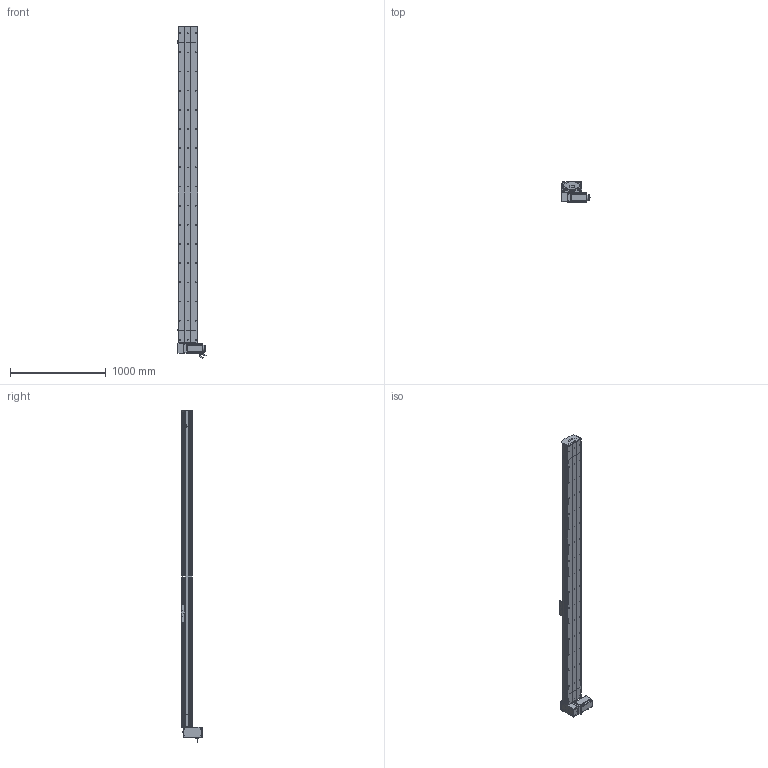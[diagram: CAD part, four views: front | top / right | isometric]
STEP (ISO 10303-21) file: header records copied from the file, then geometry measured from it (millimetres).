
FILE_DESCRIPTION (( 'STEP AP214' ), '1' );
FILE_NAME ('D20 TBH RU S3000.STEP', '2010-07-01T08:28:59', ( 'Conseil Régional Haute-Normandie' ), ( 'Conseil Régional Haute-Normandie' ), 'SwSTEP 2.0', 'SolidWorks 2010', '' );
FILE_SCHEMA (( 'AUTOMOTIVE_DESIGN' ));
Length unit declared in the file: millimetre
Products named in the file (40): chariot D20B_Default; D20 TBH RU S3000; poulie head D20_Default; Chariot D20B; couvercle head D20_Default; Course B L3000_Default; guide D20B; corp D20 S3000_Default; head RU_Default; rail tail D20; rail head D20; corpl head D20_Default; couvercle D20 S3000_Default; vis M5 L8 90°_Default; tete d''axe poulie D20B; rail + couroie  D20 S3000; couvercle tail D20_Default; corpl tail D20_Default; tail D20_Default; Couroie tail D20_Default; plaque de  bout tail D20_Default; poulie tail D20_Default; vis M5 L12_Default; vis M8 L12_Default; codeur 110BLDC170A-630x; corps 110BLDC170A-630x; avant 110BLDC170A-630x; clavette; Conecteur_Default; Conecteur2_Default; Moteur motionking 110BLDC170A-640x; vis M5 L70_Default; Plaque racord D20LH_Default; Renvoi RU D20_Default; vis M5 L25_Default; vis M5 L5_Default; cache D20_Default; cache arbre D20_Default; couroie_Default; plaque de  bout head D20B RU_Default
Assembly tree (71 placements, depth 4):
  D20 TBH RU S3000
    head RU_Default
      vis M5 L5_Default  x4
      vis M8 L12_Default  x4
      couroie_Default
      vis M5 L12_Default  x10
      vis M5 L25_Default  x2
      poulie head D20_Default
      corpl head D20_Default
      vis M5 L70_Default  x4
      Plaque racord D20LH_Default
      Moteur motionking 110BLDC170A-640x
        codeur 110BLDC170A-630x
        Conecteur2_Default
        corps 110BLDC170A-630x
        clavette
        Conecteur_Default
        avant 110BLDC170A-630x
      couvercle head D20_Default
      cache D20_Default  x2
      cache arbre D20_Default
      Renvoi RU D20_Default
      plaque de  bout head D20B RU_Default
      rail head D20
    Course B L3000_Default
      couvercle D20 S3000_Default
      corp D20 S3000_Default
      rail + couroie  D20 S3000
    tail D20_Default
      vis M5 L25_Default  x2
      rail tail D20
      corpl tail D20_Default
      Couroie tail D20_Default
      vis M5 L8 90°_Default  x2
      plaque de  bout tail D20_Default
      poulie tail D20_Default
      vis M5 L12_Default  x4
      couvercle tail D20_Default
      tete d''axe poulie D20B
    chariot D20B_Default
      vis M5 L12_Default  x4
      Chariot D20B
      guide D20B  x2
Bounding box: 304.2 x 223.2 x 3465 mm (x, y, z)
Volume: 27081219.4 mm3; surface area: 6681325.4 mm2
Topology: 95 solids, 95 shells, 2862 faces, 7362 edges, 4759 vertices
Faces by surface type: plane 1641, cylinder 897, bspline 136, cone 99, torus 89
Entity records: 92687 total; most frequent: CARTESIAN_POINT 30173, ORIENTED_EDGE 11380, DIRECTION 10683, EDGE_CURVE 5690, VERTEX_POINT 3745, VECTOR 3597, LINE 3597, AXIS2_PLACEMENT_3D 3543
